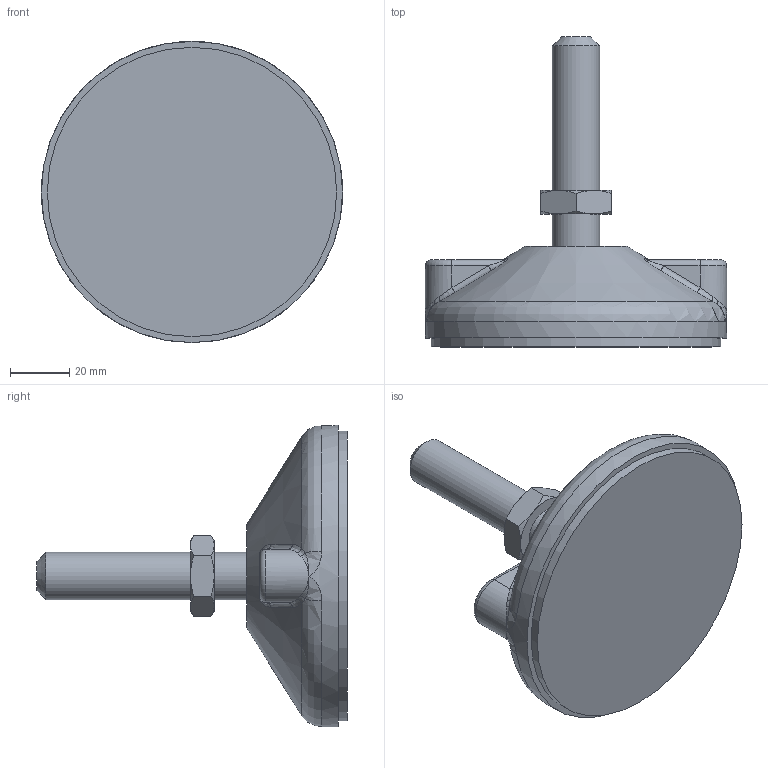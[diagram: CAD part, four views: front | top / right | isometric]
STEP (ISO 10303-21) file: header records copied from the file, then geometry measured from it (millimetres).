
FILE_DESCRIPTION (( 'STEP AP214' ), '1' );
FILE_NAME ('F21814.step', '2024-12-03T16:15:55', ( '' ), ( '' ), 'SwSTEP 2.0', 'SolidWorks 2023', '' );
FILE_SCHEMA (( 'AUTOMOTIVE_DESIGN' ));
Length unit declared in the file: millimetre
Products named in the file (1): F21814
Bounding box: 102 x 105 x 102 mm (x, y, z)
Volume: 210332.8 mm3; surface area: 26741.1 mm2
Topology: 1 solids, 1 shells, 72 faces, 163 edges, 89 vertices
Faces by surface type: bspline 24, plane 18, cone 14, cylinder 10, torus 6
Full cylindrical faces by diameter (mm): 16 x2, 98 x1, 102 x1
Entity records: 3027 total; most frequent: CARTESIAN_POINT 1675, ORIENTED_EDGE 294, DIRECTION 238, EDGE_CURVE 147, AXIS2_PLACEMENT_3D 110, VERTEX_POINT 87, EDGE_LOOP 82, FACE_OUTER_BOUND 76
